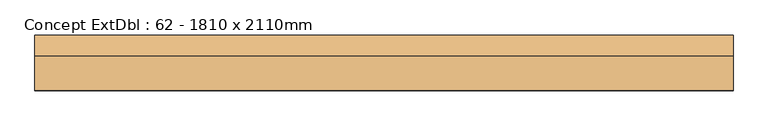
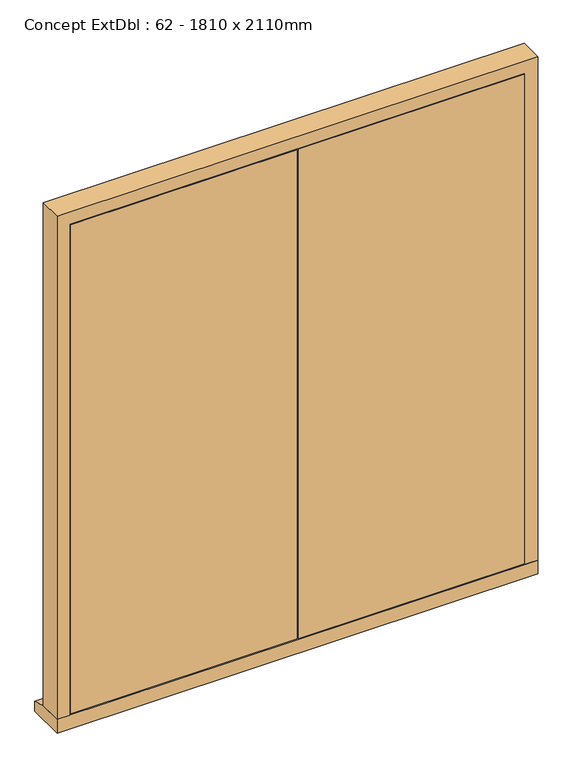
"""IFC4 building model written with IfcOpenShell, lengths in millimetres: door geometry, Concept ExtDbl : 62 - 1810 x 2110mm."""

import ifcopenshell
import ifcopenshell.guid

model = None  # the IFC model being written
_history = None  # IfcOwnerHistory: only IFC2X3 demands one
_inside = {}  # id of a spatial element -> (the spatial element, [elements in it])
_under = {}  # id of a project, library or spatial element -> (it, [spatial elements below it])
_declared = {}  # id of a project -> (the project, [libraries it declares])
_typed = {}  # id of a type object -> (the type object, [elements of that type])
_made_of = {}  # id of a material, layer set ... -> (it, [elements and type objects made of it])


def new_model(schema):
    """Start an empty IFC model of exactly this schema.

    Asked for "IFC4X3", IfcOpenShell would pick the latest addendum, in which some entities
    have other attributes; the version numbers below select the first issue.
    IFC2X3 requires an IfcOwnerHistory on every rooted entity: one is made here for all.
    """
    global model, _history
    if schema == "IFC4X3":
        model = ifcopenshell.file(schema_version=(4, 3, 0, 0))
    else:
        model = ifcopenshell.file(schema=schema)
    _inside.clear()
    _under.clear()
    _declared.clear()
    _typed.clear()
    _made_of.clear()
    _history = None
    if model.schema == "IFC2X3":
        org = make("IfcOrganization", Name="unknown")
        user = make(
            "IfcPersonAndOrganization",
            ThePerson=make("IfcPerson", FamilyName="unknown"),
            TheOrganization=org,
        )
        app = make(
            "IfcApplication",
            ApplicationDeveloper=org,
            Version="unknown",
            ApplicationFullName="unknown",
            ApplicationIdentifier="unknown",
        )
        _history = make(
            "IfcOwnerHistory",
            OwningUser=user,
            OwningApplication=app,
            ChangeAction="ADDED",
            CreationDate=0,
        )
    return model


def make(cls, **values):
    """One entity of the class cls with the attributes given. An attribute that is None is left unset."""
    return model.create_entity(
        cls, **{name: value for name, value in values.items() if value is not None}
    )


def rooted(cls, **values):
    """An entity with a GlobalId (a new one), such as an element, a storey or a relation."""
    return make(cls, GlobalId=ifcopenshell.guid.new(), OwnerHistory=_history, **values)


def si_unit(unit_type, name, prefix=None):
    """IfcSIUnit, for example si_unit("LENGTHUNIT", "METRE", prefix="MILLI")."""
    return make("IfcSIUnit", UnitType=unit_type, Prefix=prefix, Name=name)


def assignment(units):
    """IfcUnitAssignment: the units of a project."""
    return None if units is None else make("IfcUnitAssignment", Units=units)


def point(xyz):
    """IfcCartesianPoint."""
    return None if xyz is None else make("IfcCartesianPoint", Coordinates=xyz)


def direction(xyz):
    """IfcDirection."""
    return None if xyz is None else make("IfcDirection", DirectionRatios=xyz)


def frame(location, z_axis=None, x_axis=None):
    """IfcAxis2Placement3D, a coordinate frame: its origin and axes. An axis left out is left unset."""
    return make(
        "IfcAxis2Placement3D",
        Location=point(location),
        Axis=direction(z_axis),
        RefDirection=direction(x_axis),
    )


def origin():
    """The frame at (0, 0, 0) with its axes left unset."""
    return frame((0.0, 0.0, 0.0))


def place(relative_to, where):
    """IfcLocalPlacement: puts the frame where relative to a parent placement (None: the world)."""
    return make(
        "IfcLocalPlacement", PlacementRelTo=relative_to, RelativePlacement=where
    )


def context(
    kind, dimensions, precision=None, world=None, true_north=None, identifier=None
):
    """IfcGeometricRepresentationContext, for example the 3D "Model" context."""
    return make(
        "IfcGeometricRepresentationContext",
        ContextIdentifier=identifier,
        ContextType=kind,
        CoordinateSpaceDimension=dimensions,
        Precision=precision,
        WorldCoordinateSystem=world,
        TrueNorth=true_north,
    )


def project(units=None, contexts=None):
    """IfcProject with its units and contexts."""
    return rooted(
        "IfcProject",
        Name="project",
        RepresentationContexts=contexts,
        UnitsInContext=assignment(units),
    )


def spatial(cls, under=None, at=None, **own):
    """A site, building, storey or space (cls), placed at a placement, below another one or the project."""
    s = rooted(cls, ObjectPlacement=at, **own)
    if under is not None:
        _under.setdefault(under.id(), (under, []))[1].append(s)
    return s


def polyline(points):
    """IfcPolyline through the points."""
    return make("IfcPolyline", Points=[point(p) for p in points])


def outline(outer, holes=None, kind="AREA"):
    """IfcArbitraryClosedProfileDef: a profile drawn as a closed curve; with holes, ...WithVoids."""
    if holes is None:
        return make("IfcArbitraryClosedProfileDef", ProfileType=kind, OuterCurve=outer)
    return make(
        "IfcArbitraryProfileDefWithVoids",
        ProfileType=kind,
        OuterCurve=outer,
        InnerCurves=holes,
    )


def extrude(swept, where, along, depth):
    """IfcExtrudedAreaSolid: the profile swept, set in the frame where, extruded along a direction by depth."""
    return make(
        "IfcExtrudedAreaSolid",
        SweptArea=swept,
        Position=where,
        ExtrudedDirection=direction(along),
        Depth=depth,
    )


def faces_of(points, faces, orient=None, outer=None):
    """IfcFace entities. A face is a list of loops; a loop is a list of indices into points, from 0.

    orient and outer hold one flag for each loop. By default every Orientation is true, the
    first loop of a face is its IfcFaceOuterBound and the others are IfcFaceBound.
    """
    made = []
    for i, loops in enumerate(faces):
        bounds = []
        for j, loop in enumerate(loops):
            is_outer = j == 0 if outer is None else outer[i][j]
            bounds.append(
                make(
                    "IfcFaceOuterBound" if is_outer else "IfcFaceBound",
                    Bound=make("IfcPolyLoop", Polygon=[points[k] for k in loop]),
                    Orientation=True if orient is None else orient[i][j],
                )
            )
        made.append(make("IfcFace", Bounds=bounds))
    return made


def faceted_brep(points, faces, orient=None, outer=None, voids=None):
    """IfcFacetedBrep: a solid bounded by flat faces; with voids (closed shells), ...WithVoids."""
    shared = [point(p) for p in points]
    hull = make("IfcClosedShell", CfsFaces=faces_of(shared, faces, orient, outer))
    if voids is None:
        return make("IfcFacetedBrep", Outer=hull)
    return make(
        "IfcFacetedBrepWithVoids",
        Outer=hull,
        Voids=[
            make(cls, CfsFaces=faces_of(shared, fs, o, b)) for cls, fs, o, b in voids
        ],
    )


def shape(context_of_items, identifier, shape_type, items):
    """IfcShapeRepresentation: the items that make up one representation, for example the "Body"."""
    return make(
        "IfcShapeRepresentation",
        ContextOfItems=context_of_items,
        RepresentationIdentifier=identifier,
        RepresentationType=shape_type,
        Items=items,
    )


def source(mapping_origin, context_of_items, identifier, shape_type, items):
    """IfcRepresentationMap: a shape defined once, which mapped items show again and again."""
    return make(
        "IfcRepresentationMap",
        MappingOrigin=mapping_origin,
        MappedRepresentation=shape(context_of_items, identifier, shape_type, items),
    )


def transform(
    local_origin,
    x_axis=None,
    y_axis=None,
    z_axis=None,
    scale=None,
    scale2=None,
    scale3=None,
    uniform=True,
):
    """IfcCartesianTransformationOperator3D, or its non-uniform kind. x_axis, y_axis, z_axis: its Axis1, 2, 3."""
    if uniform:
        return make(
            "IfcCartesianTransformationOperator3D",
            Axis1=direction(x_axis),
            Axis2=direction(y_axis),
            LocalOrigin=point(local_origin),
            Scale=scale,
            Axis3=direction(z_axis),
        )
    return make(
        "IfcCartesianTransformationOperator3DnonUniform",
        Axis1=direction(x_axis),
        Axis2=direction(y_axis),
        LocalOrigin=point(local_origin),
        Scale=scale,
        Axis3=direction(z_axis),
        Scale2=scale2,
        Scale3=scale3,
    )


def mapped(mapping_source, mapping_target):
    """IfcMappedItem: shows the shape of a source again, moved by a transform."""
    return make(
        "IfcMappedItem", MappingSource=mapping_source, MappingTarget=mapping_target
    )


def made_of(thing, what):
    """Note that an element or type object is made of a material, layer set ...; save() writes the relation."""
    if what is not None:
        _made_of.setdefault(what.id(), (what, []))[1].append(thing)
    return thing


def element(
    cls,
    number,
    at=None,
    inside=None,
    cuts=None,
    type_object=None,
    material=None,
    context=None,
    identifier="Body",
    shape_type=None,
    held_by="IfcProductDefinitionShape",
    body=None,
    shapes=None,
    **own,
):
    """One element of the class cls, such as IfcWall. Its Tag is "e" and its number.

    at: its placement. inside: the storey or other place that contains it. cuts: it is an
    opening in that element (IfcRelVoidsElement). A single representation is given by context,
    identifier, shape_type and body (its items); several are given by shapes. held_by: the class
    of the entity that holds the representations. save() writes the other relations.
    """
    e = rooted(cls, Tag="e%d" % number, ObjectPlacement=at, **own)
    if body is not None:
        shapes = [shape(context, identifier, shape_type, body)]
    if shapes is not None:
        e.Representation = make(held_by, Representations=shapes)
    if inside is not None:
        _inside.setdefault(inside.id(), (inside, []))[1].append(e)
    if cuts is not None:
        rooted(
            "IfcRelVoidsElement", RelatingBuildingElement=cuts, RelatedOpeningElement=e
        )
    if type_object is not None:
        _typed.setdefault(type_object.id(), (type_object, []))[1].append(e)
    return made_of(e, material)


def aggregate(whole, parts):
    """IfcRelAggregates: a whole, such as a stair, and the parts it consists of."""
    return rooted("IfcRelAggregates", RelatingObject=whole, RelatedObjects=parts)


def save(model, path):
    """Write the relations noted so far, then the file.

    IfcRelAggregates (storeys below a building ...), IfcRelContainedInSpatialStructure (elements
    in a storey), IfcRelDefinesByType, IfcRelAssociatesMaterial and IfcRelDeclares: one each for
    every whole, place, type object, material and project.
    """
    for whole, parts in _under.values():
        aggregate(whole, parts)
    for where, things in _inside.values():
        rooted(
            "IfcRelContainedInSpatialStructure",
            RelatedElements=things,
            RelatingStructure=where,
        )
    for kind, things in _typed.values():
        rooted("IfcRelDefinesByType", RelatedObjects=things, RelatingType=kind)
    for what, things in _made_of.values():
        rooted("IfcRelAssociatesMaterial", RelatedObjects=things, RelatingMaterial=what)
    for by, libraries in _declared.values():
        rooted("IfcRelDeclares", RelatingContext=by, RelatedDefinitions=libraries)
    model.write(path)


def concept_extdbl_62_1810_x_2110mm_01508d64(model_context):
    return source(origin(), model_context, "Body", "SolidModel", [
        faceted_brep([(834.5, 120.0, 54.5), (905.0, 120.0, 54.5), (905.0, 31.0, 54.5), (856.5, 31.0, 54.5), (856.5, 78.0, 54.5), (834.5, 78.0, 54.5), (834.5, 120.0, 1984.5), (-834.5, 120.0, 1984.5), (-834.5, 120.0, 54.5), (-905.0, 120.0, 54.5), (-905.0, 120.0, 2055.0), (905.0, 120.0, 2055.0), (905.0, 31.0, 2055.0), (-905.0, 31.0, 2055.0), (-905.0, 31.0, 54.5), (-856.5, 31.0, 54.5), (-856.5, 31.0, 2006.5), (856.5, 31.0, 2006.5), (856.5, 78.0, 2006.5), (-856.5, 78.0, 2006.5), (-856.5, 78.0, 54.5), (-834.5, 78.0, 54.5), (-834.5, 78.0, 1984.5), (834.5, 78.0, 1984.5)], [[[0, 1, 2, 3, 4, 5]], [[1, 0, 6, 7, 8, 9, 10, 11]], [[2, 1, 11, 12]], [[3, 2, 12, 13, 14, 15, 16, 17]], [[4, 3, 17, 18]], [[5, 4, 18, 19, 20, 21, 22, 23]], [[0, 5, 23, 6]], [[7, 22, 21, 8]], [[8, 21, 20, 15, 14, 9]], [[13, 10, 9, 14]], [[19, 16, 15, 20]], [[12, 11, 10, 13]], [[18, 17, 16, 19]], [[6, 23, 22, 7]]]),
        extrude(outline(polyline([(31.0, 0.0), (31.0, 54.5), (120.0, 54.5), (175.0, 38.5947221), (175.0, 0.0), (31.0, 0.0)])), frame((-905.0, 0.0, 0.0), z_axis=(1.0, 0.0, 0.0), x_axis=(0.0, 1.0, 0.0)), (0.0, 0.0, 1.0), 1810.0),
        extrude(outline(polyline([(853.5, 31.0), (1.5, 31.0), (1.5, 75.0), (853.5, 75.0), (853.5, 31.0)])), frame((0.0, 0.0, 58.5), z_axis=(0.0, 0.0, 1.0), x_axis=(1.0, 0.0, 0.0)), (0.0, 0.0, 1.0), 1945.0),
        extrude(outline(polyline([(-1.5, 31.0), (-853.5, 31.0), (-853.5, 75.0), (-1.5, 75.0), (-1.5, 31.0)])), frame((0.0, 0.0, 58.5), z_axis=(0.0, 0.0, 1.0), x_axis=(1.0, 0.0, 0.0)), (0.0, 0.0, 1.0), 1945.0),
    ])


if __name__ == "__main__":
    model = new_model("IFC4")
    model_context = context("Model", 3, world=origin())
    ifc_project = project(units=[si_unit("LENGTHUNIT", "METRE", prefix="MILLI")], contexts=[model_context])
    site = spatial("IfcSite", under=ifc_project)
    building = spatial("IfcBuilding", under=site)
    placement = place(None, origin())
    concept_extdbl_62_1810_x_2110mm_shape = concept_extdbl_62_1810_x_2110mm_01508d64(model_context)
    element("IfcDoor", 1, ObjectType="Concept ExtDbl : 62 - 1810 x 2110mm", at=placement, inside=building, context=model_context, shape_type="MappedRepresentation", body=[
        mapped(concept_extdbl_62_1810_x_2110mm_shape, transform((0.0, 0.0, 0.0), x_axis=(1.0, 0.0, 0.0), y_axis=(0.0, 1.0, 0.0), z_axis=(0.0, 0.0, 1.0))),
    ])
    save(model, "model.ifc")
